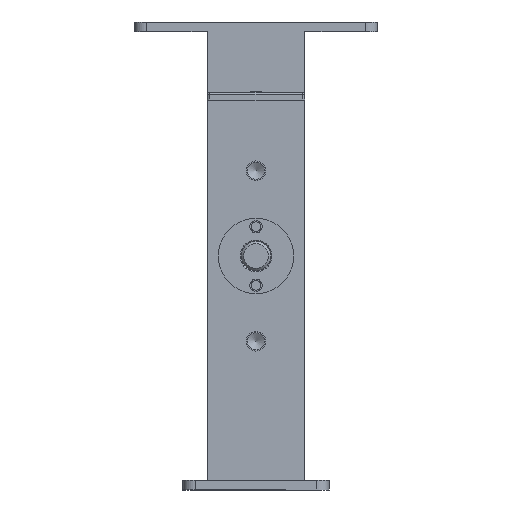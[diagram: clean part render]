
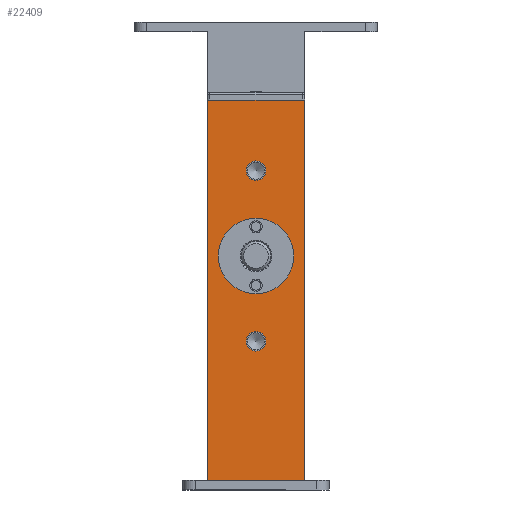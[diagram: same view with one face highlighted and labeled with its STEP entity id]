
A CAD part, front view. The second image highlights one B-rep face of the part: STEP entity #22409.
In plain terms, the highlighted planar face has unit normal (0, -1, 0).
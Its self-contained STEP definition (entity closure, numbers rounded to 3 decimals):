
#20707=CARTESIAN_POINT('',(388.024,-199.372,160.0));
#20708=VERTEX_POINT('',#20707);
#20732=CARTESIAN_POINT('',(350.024,-199.372,160.0));
#20733=VERTEX_POINT('',#20732);
#20740=CARTESIAN_POINT('',(388.024,-199.372,160.0));
#20741=DIRECTION('',(-1.0,0.0,0.0));
#20742=VECTOR('',#20741,38.0);
#20743=LINE('',#20740,#20742);
#20744=EDGE_CURVE('',#20708,#20733,#20743,.T.);
#20774=CARTESIAN_POINT('',(349.024,-199.372,160.));
#20775=VERTEX_POINT('',#20774);
#20782=CARTESIAN_POINT('',(350.024,-199.372,160.));
#20783=DIRECTION('',(-1.0,0.0,0.0));
#20784=VECTOR('',#20783,1.0);
#20785=LINE('',#20782,#20784);
#20786=EDGE_CURVE('',#20733,#20775,#20785,.T.);
#20843=CARTESIAN_POINT('',(389.024,-199.372,160.0));
#20844=VERTEX_POINT('',#20843);
#20845=CARTESIAN_POINT('',(389.024,-199.372,160.0));
#20846=DIRECTION('',(-1.0,0.0,0.0));
#20847=VECTOR('',#20846,1.0);
#20848=LINE('',#20845,#20847);
#20849=EDGE_CURVE('',#20844,#20708,#20848,.T.);
#21920=CARTESIAN_POINT('',(369.024,-199.372,111.5));
#21921=VERTEX_POINT('',#21920);
#21922=CARTESIAN_POINT('',(369.024,-199.372,96.));
#21923=DIRECTION('',(0.0,1.0,0.0));
#21924=DIRECTION('',(0.0,0.0,1.0));
#21925=AXIS2_PLACEMENT_3D('',#21922,#21923,#21924);
#21926=CIRCLE('',#21925,15.5);
#21927=EDGE_CURVE('',#21921,#21921,#21926,.T.);
#22352=CARTESIAN_POINT('',(389.024,-199.372,4.));
#22353=DIRECTION('',(0.0,-1.0,0.0));
#22354=DIRECTION('',(0.0,0.0,1.0));
#22355=AXIS2_PLACEMENT_3D('',#22352,#22353,#22354);
#22356=PLANE('',#22355);
#22357=ORIENTED_EDGE('',*,*,#20849,.T.);
#22358=ORIENTED_EDGE('',*,*,#20744,.T.);
#22359=ORIENTED_EDGE('',*,*,#20786,.T.);
#22360=CARTESIAN_POINT('',(349.024,-199.372,4.));
#22361=VERTEX_POINT('',#22360);
#22362=CARTESIAN_POINT('',(349.024,-199.372,4.));
#22363=DIRECTION('',(0.0,0.0,1.0));
#22364=VECTOR('',#22363,156.0);
#22365=LINE('',#22362,#22364);
#22366=EDGE_CURVE('',#22361,#20775,#22365,.T.);
#22367=ORIENTED_EDGE('',*,*,#22366,.F.);
#22368=CARTESIAN_POINT('',(389.024,-199.372,4.));
#22369=VERTEX_POINT('',#22368);
#22370=CARTESIAN_POINT('',(389.024,-199.372,4.));
#22371=DIRECTION('',(-1.0,0.0,0.0));
#22372=VECTOR('',#22371,40.0);
#22373=LINE('',#22370,#22372);
#22374=EDGE_CURVE('',#22369,#22361,#22373,.T.);
#22375=ORIENTED_EDGE('',*,*,#22374,.F.);
#22376=CARTESIAN_POINT('',(389.024,-199.372,4.));
#22377=DIRECTION('',(0.0,0.0,1.0));
#22378=VECTOR('',#22377,156.0);
#22379=LINE('',#22376,#22378);
#22380=EDGE_CURVE('',#22369,#20844,#22379,.T.);
#22381=ORIENTED_EDGE('',*,*,#22380,.T.);
#22382=EDGE_LOOP('',(#22357,#22358,#22359,#22367,#22375,#22381));
#22383=FACE_OUTER_BOUND('',#22382,.T.);
#22384=ORIENTED_EDGE('',*,*,#21927,.T.);
#22385=EDGE_LOOP('',(#22384));
#22386=FACE_BOUND('',#22385,.T.);
#22387=CARTESIAN_POINT('',(365.024,-199.372,131.));
#22388=VERTEX_POINT('',#22387);
#22389=CARTESIAN_POINT('',(369.024,-199.372,131.));
#22390=DIRECTION('',(0.0,1.0,0.0));
#22391=DIRECTION('',(-1.0,0.0,0.0));
#22392=AXIS2_PLACEMENT_3D('',#22389,#22390,#22391);
#22393=CIRCLE('',#22392,4.0);
#22394=EDGE_CURVE('',#22388,#22388,#22393,.T.);
#22395=ORIENTED_EDGE('',*,*,#22394,.T.);
#22396=EDGE_LOOP('',(#22395));
#22397=FACE_BOUND('',#22396,.T.);
#22398=CARTESIAN_POINT('',(365.024,-199.372,61.));
#22399=VERTEX_POINT('',#22398);
#22400=CARTESIAN_POINT('',(369.024,-199.372,61.));
#22401=DIRECTION('',(0.0,1.0,0.0));
#22402=DIRECTION('',(-1.0,0.0,0.0));
#22403=AXIS2_PLACEMENT_3D('',#22400,#22401,#22402);
#22404=CIRCLE('',#22403,4.0);
#22405=EDGE_CURVE('',#22399,#22399,#22404,.T.);
#22406=ORIENTED_EDGE('',*,*,#22405,.T.);
#22407=EDGE_LOOP('',(#22406));
#22408=FACE_BOUND('',#22407,.T.);
#22409=ADVANCED_FACE('',(#22383,#22386,#22397,#22408),#22356,.T.);
